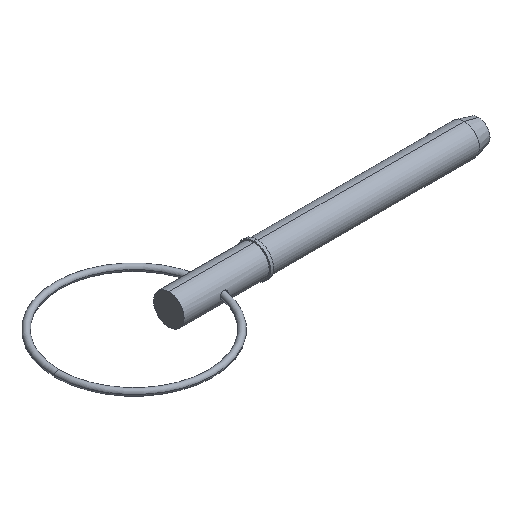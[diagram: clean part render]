
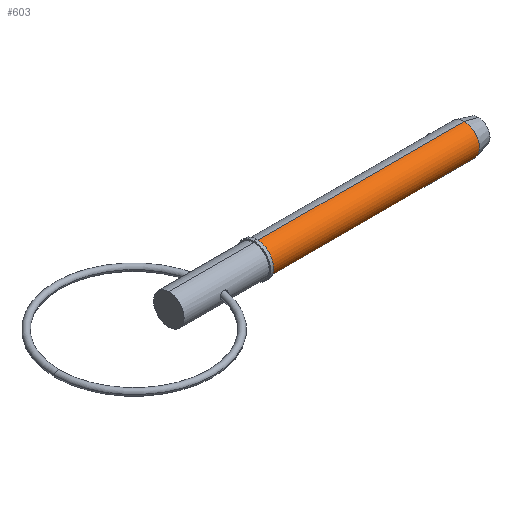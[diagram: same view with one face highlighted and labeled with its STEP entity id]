
A CAD part, isometric view. The second image highlights one B-rep face of the part: STEP entity #603.
In plain terms, the highlighted cylindrical face has radius 3.175 mm (diameter 6.35 mm), a partial arc.
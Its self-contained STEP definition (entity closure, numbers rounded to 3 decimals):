
#26 = VERTEX_POINT ( 'NONE', #599 ) ;
#59 = ORIENTED_EDGE ( 'NONE', *, *, #902, .F. ) ;
#69 = FACE_OUTER_BOUND ( 'NONE', #590, .T. ) ;
#129 = CARTESIAN_POINT ( 'NONE',  ( 61.348, 0., 0. ) ) ;
#138 = CARTESIAN_POINT ( 'NONE',  ( 0., 0., 0. ) ) ;
#151 = VECTOR ( 'NONE', #712, 1000. ) ;
#173 = DIRECTION ( 'NONE',  ( 0., 0., -1. ) ) ;
#184 = LINE ( 'NONE', #569, #151 ) ;
#196 = EDGE_CURVE ( 'NONE', #509, #637, #184, .T. ) ;
#220 = AXIS2_PLACEMENT_3D ( 'NONE', #138, #531, #828 ) ;
#226 = EDGE_CURVE ( 'NONE', #26, #713, #403, .T. ) ;
#281 = EDGE_CURVE ( 'NONE', #509, #26, #688, .T. ) ;
#284 = ORIENTED_EDGE ( 'NONE', *, *, #196, .F. ) ;
#324 = DIRECTION ( 'NONE',  ( 1., 0., 0. ) ) ;
#373 = VECTOR ( 'NONE', #324, 1000. ) ;
#403 = LINE ( 'NONE', #632, #373 ) ;
#408 = CIRCLE ( 'NONE', #800, 3.175 ) ;
#509 = VERTEX_POINT ( 'NONE', #513 ) ;
#513 = CARTESIAN_POINT ( 'NONE',  ( 18.29, 0., 3.175 ) ) ;
#531 = DIRECTION ( 'NONE',  ( 1., 0., 0. ) ) ;
#537 = CYLINDRICAL_SURFACE ( 'NONE', #220, 3.175 ) ;
#561 = CARTESIAN_POINT ( 'NONE',  ( 18.29, 0., 0. ) ) ;
#569 = CARTESIAN_POINT ( 'NONE',  ( 0., 0., 3.175 ) ) ;
#590 = EDGE_LOOP ( 'NONE', ( #284, #700, #808, #59 ) ) ;
#599 = CARTESIAN_POINT ( 'NONE',  ( 18.29, 0., -3.175 ) ) ;
#601 = CARTESIAN_POINT ( 'NONE',  ( 61.348, 0., 3.175 ) ) ;
#603 = ADVANCED_FACE ( 'NONE', ( #69 ), #537, .T. ) ;
#625 = AXIS2_PLACEMENT_3D ( 'NONE', #561, #867, #173 ) ;
#632 = CARTESIAN_POINT ( 'NONE',  ( 0., 0., -3.175 ) ) ;
#637 = VERTEX_POINT ( 'NONE', #601 ) ;
#651 = DIRECTION ( 'NONE',  ( 0., 0., -1. ) ) ;
#688 = CIRCLE ( 'NONE', #625, 3.175 ) ;
#700 = ORIENTED_EDGE ( 'NONE', *, *, #281, .T. ) ;
#712 = DIRECTION ( 'NONE',  ( 1., 0., 0. ) ) ;
#713 = VERTEX_POINT ( 'NONE', #897 ) ;
#731 = DIRECTION ( 'NONE',  ( 1., 0., 0. ) ) ;
#800 = AXIS2_PLACEMENT_3D ( 'NONE', #129, #731, #651 ) ;
#808 = ORIENTED_EDGE ( 'NONE', *, *, #226, .T. ) ;
#828 = DIRECTION ( 'NONE',  ( 0., 0., -1. ) ) ;
#867 = DIRECTION ( 'NONE',  ( 1., 0., 0. ) ) ;
#897 = CARTESIAN_POINT ( 'NONE',  ( 61.348, 0., -3.175 ) ) ;
#902 = EDGE_CURVE ( 'NONE', #637, #713, #408, .T. ) ;
